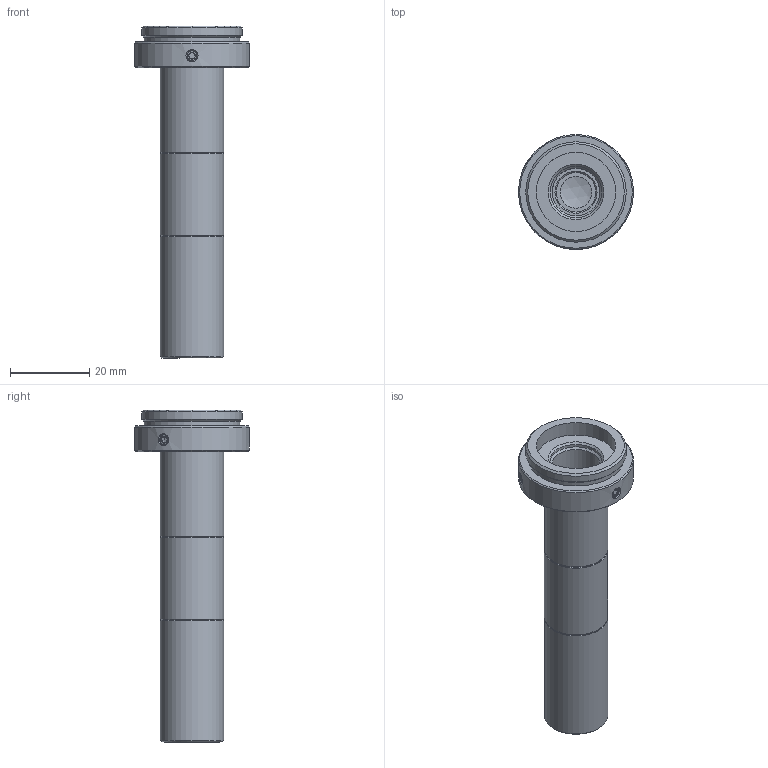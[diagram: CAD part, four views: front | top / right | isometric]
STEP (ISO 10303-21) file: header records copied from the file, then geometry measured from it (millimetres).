
FILE_DESCRIPTION(('STEP AP214'),'1');
FILE_NAME('RTK-1-65.stp','2026-03-16T03:12:21',(' '),(' '),'Spatial InterOp 3D',' ',' ');
FILE_SCHEMA(('AUTOMOTIVE_DESIGN { 1 0 10303 214 1 1 1 1 }'));
Length unit declared in the file: metre
Products named in the file (2): RTK-1-65; Component1
Assembly tree (1 placements, depth 2):
  RTK-1-65
    Component1
Bounding box: 29 x 29 x 83.74 mm (x, y, z)
Volume: 10687.4 mm3; surface area: 10307.2 mm2
Topology: 1 solids, 5 shells, 159 faces, 358 edges, 233 vertices
Faces by surface type: cone 58, plane 58, cylinder 38, bspline 3, sphere 2
Full cylindrical faces by diameter (mm): 2.5 x6, 8 x1, 10 x2, 12 x4, 12.7 x1, 13 x2, 13.4 x2, 13.5 x2, 13.7 x1, 14 x2, 14.2 x2, 14.5 x1, 14.7 x1, 16 x5, 20 x1, 24.12 x1, 25.32 x1, 29 x1
Entity records: 5620 total; most frequent: CARTESIAN_POINT 1182, DIRECTION 654, ORIENTED_EDGE 516, AXIS2_PLACEMENT_3D 283, EDGE_LOOP 266, EDGE_CURVE 258, VERTEX_POINT 210, FACE_OUTER_BOUND 197
